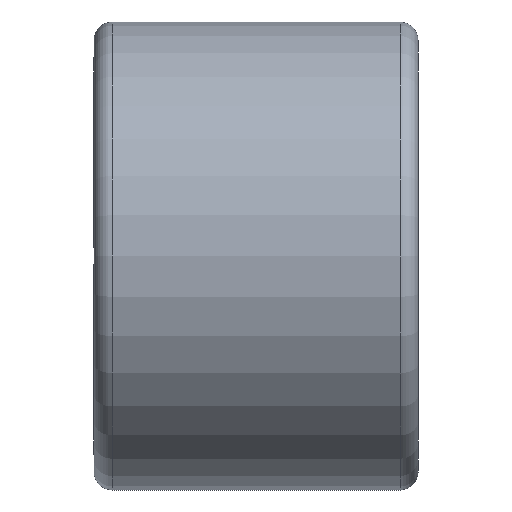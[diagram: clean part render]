
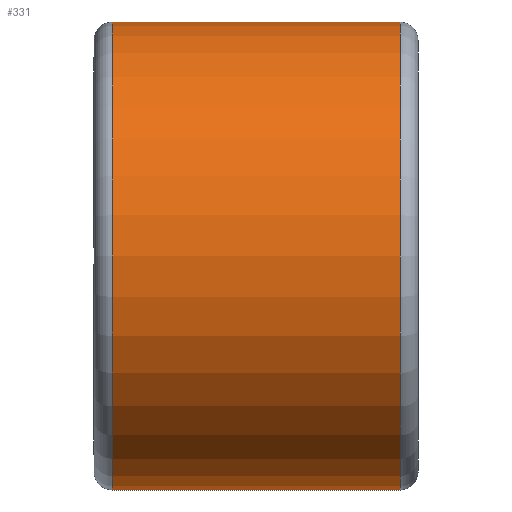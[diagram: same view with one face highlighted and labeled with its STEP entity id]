
A CAD part, front view. The second image highlights one B-rep face of the part: STEP entity #331.
In plain terms, the highlighted cylindrical face has radius 13 mm (diameter 26 mm), a full revolution.
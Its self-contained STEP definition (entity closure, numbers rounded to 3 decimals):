
#168=CYLINDRICAL_SURFACE('',#355,13.);
#176=FACE_BOUND('',#212,.T.);
#192=FACE_OUTER_BOUND('',#211,.T.);
#211=EDGE_LOOP('',(#296));
#212=EDGE_LOOP('',(#297));
#244=CIRCLE('',#354,13.);
#245=CIRCLE('',#356,13.);
#261=VERTEX_POINT('',#574);
#262=VERTEX_POINT('',#577);
#278=EDGE_CURVE('',#261,#261,#244,.T.);
#279=EDGE_CURVE('',#262,#262,#245,.T.);
#296=ORIENTED_EDGE('',*,*,#279,.F.);
#297=ORIENTED_EDGE('',*,*,#278,.F.);
#331=ADVANCED_FACE('',(#192,#176),#168,.T.);
#354=AXIS2_PLACEMENT_3D('',#575,#430,#431);
#355=AXIS2_PLACEMENT_3D('',#576,#432,#433);
#356=AXIS2_PLACEMENT_3D('',#578,#434,#435);
#430=DIRECTION('center_axis',(-1.,0.,0.));
#431=DIRECTION('ref_axis',(0.,-1.,0.));
#432=DIRECTION('center_axis',(1.,0.,0.));
#433=DIRECTION('ref_axis',(0.,1.,0.));
#434=DIRECTION('center_axis',(1.,0.,0.));
#435=DIRECTION('ref_axis',(0.,-1.,0.));
#574=CARTESIAN_POINT('',(-8.,13.,0.));
#575=CARTESIAN_POINT('Origin',(-8.,0.,0.));
#576=CARTESIAN_POINT('Origin',(0.,0.,
0.));
#577=CARTESIAN_POINT('',(8.,13.,0.));
#578=CARTESIAN_POINT('Origin',(8.,0.,0.));
